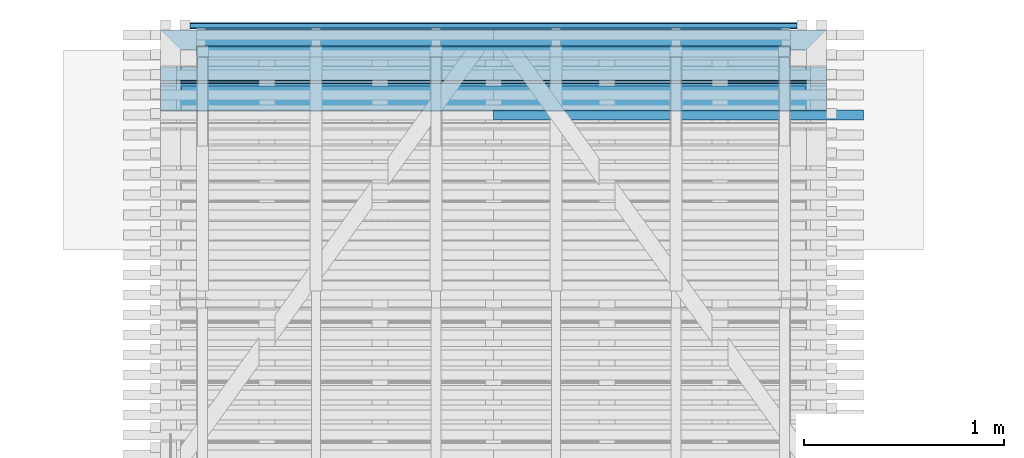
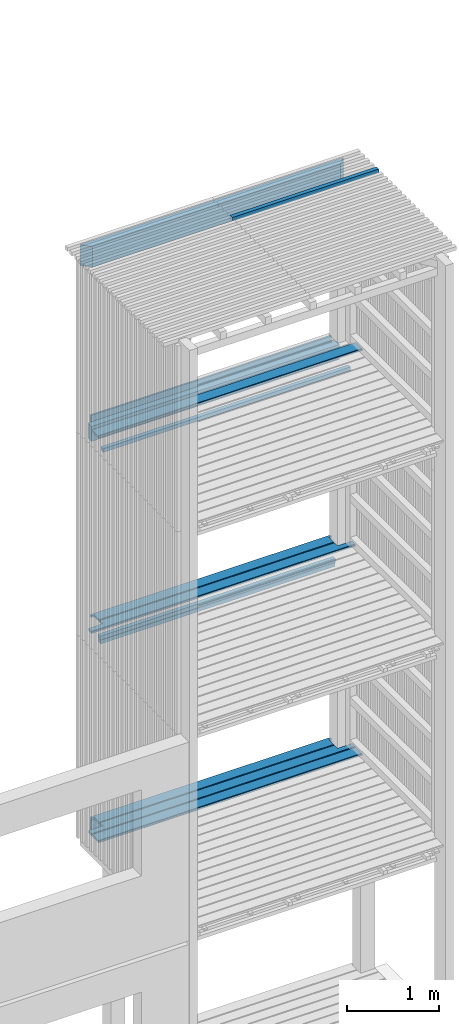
# One storey, part 77 of 182: 15 beams.
"""IFC2X3 building model written with IfcOpenShell, lengths in metres."""

from ifc_helpers import new_model, si_unit, frame, origin, place, context, project, spatial, faceted_brep, element, save


model = new_model("IFC2X3")

# Units and contexts
model_context = context("Model", 3, precision=1e-06, world=origin())
ifc_project = project(units=[si_unit("LENGTHUNIT", "METRE"), si_unit("PLANEANGLEUNIT", "RADIAN")], contexts=[model_context])

# Site, building, storey
site = spatial("IfcSite", under=ifc_project, CompositionType="ELEMENT")
building = spatial("IfcBuilding", under=site, CompositionType="ELEMENT")
storey = spatial("IfcBuildingStorey", under=building, Name="vs", CompositionType="ELEMENT", Elevation=-0.85)

# Beams
placement = place(None, origin())
beam_1_placement = place(placement, frame((26.189999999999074, 12.760077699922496, 5.167399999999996), z_axis=(0.0, 0.0, 1.0), x_axis=(-1.0, 0.0, 0.0)))
element("IfcBeam", 1, at=beam_1_placement, inside=storey, Name="Bardage", context=model_context, shape_type="Brep", body=[
    faceted_brep([(2.96000000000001, -0.024999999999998, 0.025), (2.96000000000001, -0.024999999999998, -0.025), (2.96000000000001, 0.025000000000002, -0.025), (2.96000000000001, 0.025000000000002, 0.025), (2e-15, 0.024999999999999, 0.025), (2e-15, 0.024999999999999, -0.025), (2e-15, -0.024999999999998, -0.025), (2e-15, -0.024999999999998, 0.025), (2e-15, -0.024999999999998, -0.025), (2e-15, 0.024999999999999, -0.025), (2.96000000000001, 0.025000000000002, -0.025), (2.96000000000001, -0.024999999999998, -0.025), (2e-15, 0.024999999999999, -0.025), (2e-15, 0.024999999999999, 0.025), (2.96000000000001, 0.025000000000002, 0.025), (2.96000000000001, 0.025000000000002, -0.025), (2e-15, 0.024999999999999, 0.025), (2e-15, -0.024999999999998, 0.025), (2.96000000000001, -0.024999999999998, 0.025), (2.96000000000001, 0.025000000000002, 0.025), (2e-15, -0.024999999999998, 0.025), (2e-15, -0.024999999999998, -0.025), (2.96000000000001, -0.024999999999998, -0.025), (2.96000000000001, -0.024999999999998, 0.025)], [[[0, 1, 2, 3]], [[4, 5, 6, 7]], [[8, 9, 10, 11]], [[12, 13, 14, 15]], [[16, 17, 18, 19]], [[20, 21, 22, 23]]]),
])
beam_2_placement = place(placement, frame((23.044999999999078, 12.82007769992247, 10.314999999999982), z_axis=(0.0, 0.0, 1.0), x_axis=(1.0, 7e-15, 0.0)))
element("IfcBeam", 2, at=beam_2_placement, inside=storey, Name="Sommier", context=model_context, shape_type="Brep", body=[
    faceted_brep([(3.33, 0.049999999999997, -0.140000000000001), (3.230000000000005, -0.049999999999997, -0.140000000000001), (0.099999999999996, -0.049999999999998, -0.140000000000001), (2e-15, 0.049999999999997, -0.140000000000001), (0.099999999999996, -0.049999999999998, -0.140000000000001), (3.230000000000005, -0.049999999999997, -0.140000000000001), (3.230000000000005, -0.049999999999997, 0.140000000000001), (0.099999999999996, -0.049999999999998, 0.140000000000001), (3.230000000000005, -0.049999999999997, -0.140000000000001), (3.33, 0.049999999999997, -0.140000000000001), (3.33, 0.049999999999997, 0.140000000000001), (3.230000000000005, -0.049999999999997, 0.140000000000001), (3.33, 0.049999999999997, 0.140000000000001), (3.33, 0.049999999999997, -0.140000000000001), (2e-15, 0.049999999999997, -0.140000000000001), (2e-15, 0.049999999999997, 0.140000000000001), (0.099999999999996, -0.049999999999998, 0.140000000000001), (3.230000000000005, -0.049999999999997, 0.140000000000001), (3.33, 0.049999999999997, 0.140000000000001), (2e-15, 0.049999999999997, 0.140000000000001), (0.099999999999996, -0.049999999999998, -0.140000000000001), (0.099999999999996, -0.049999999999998, 0.140000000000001), (2e-15, 0.049999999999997, 0.140000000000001), (2e-15, 0.049999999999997, -0.140000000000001)], [[[0, 1, 2, 3]], [[4, 5, 6, 7]], [[8, 9, 10, 11]], [[12, 13, 14, 15]], [[16, 17, 18, 19]], [[20, 21, 22, 23]]]),
])
beam_3_placement = place(placement, frame((26.226818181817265, 12.834577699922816, 5.433499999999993), z_axis=(0.0, 0.0, 1.0), x_axis=(-1.0, 0.0, 0.0)))
element("IfcBeam", 3, at=beam_3_placement, inside=storey, Name="Caillebotis", context=model_context, shape_type="Brep", body=[
    faceted_brep([(3.033636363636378, -0.072499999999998, -0.0135), (3.033636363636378, -0.072499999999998, 0.008500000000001), (2e-15, -0.072499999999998, 0.008500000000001), (2e-15, -0.072500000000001, -0.0135), (2.996818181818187, 0.072500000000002, 0.0085), (2.996818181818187, 0.067500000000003, 0.0135), (2.996818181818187, -0.040499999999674, 0.0135), (2.996818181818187, -0.040499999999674, -0.0135), (2.996818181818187, 0.072500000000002, -0.013500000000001), (0.036818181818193, -0.040499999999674, -0.0135), (0.036818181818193, 0.072499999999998, -0.0135), (2.996818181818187, 0.072500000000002, -0.013500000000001), (2.996818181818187, -0.040499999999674, -0.0135), (3.033636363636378, -0.040499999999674, -0.013500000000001), (3.033636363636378, -0.072499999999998, -0.0135), (2e-15, -0.072500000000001, -0.0135), (2e-15, -0.040499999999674, -0.0135), (3.033636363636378, -0.072499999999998, 0.008500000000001), (3.033636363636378, -0.072499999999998, -0.0135), (3.033636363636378, -0.040499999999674, -0.013500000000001), (3.033636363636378, -0.040499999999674, 0.0135), (3.033636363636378, -0.067500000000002, 0.0135), (3.033636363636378, -0.040499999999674, 0.0135), (3.033636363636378, -0.040499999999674, -0.013500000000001), (2.996818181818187, -0.040499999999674, -0.0135), (2.996818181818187, -0.040499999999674, 0.0135), (2.996818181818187, 0.072500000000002, 0.0085), (2.996818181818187, 0.072500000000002, -0.013500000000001), (0.036818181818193, 0.072499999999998, -0.0135), (0.036818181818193, 0.072499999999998, 0.008500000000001), (2.996818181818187, 0.067500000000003, 0.0135), (2.996818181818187, 0.072500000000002, 0.0085), (0.036818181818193, 0.072499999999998, 0.008500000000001), (0.036818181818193, 0.067500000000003, 0.0135), (0.036818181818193, 0.067500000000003, 0.0135), (0.036818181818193, 0.072499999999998, 0.008500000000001), (0.036818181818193, 0.072499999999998, -0.0135), (0.036818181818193, -0.040499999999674, -0.0135), (0.036818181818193, -0.040499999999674, 0.0135), (0.036818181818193, -0.040499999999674, 0.0135), (0.036818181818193, -0.040499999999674, -0.0135), (2e-15, -0.040499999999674, -0.0135), (2e-15, -0.040499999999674, 0.0135), (3.033636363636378, -0.067500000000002, 0.0135), (3.033636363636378, -0.040499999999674, 0.0135), (2.996818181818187, -0.040499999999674, 0.0135), (2.996818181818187, 0.067500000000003, 0.0135), (0.036818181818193, 0.067500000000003, 0.0135), (0.036818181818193, -0.040499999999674, 0.0135), (2e-15, -0.040499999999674, 0.0135), (2e-15, -0.067500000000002, 0.0135), (2e-15, -0.072499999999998, 0.008500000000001), (3.033636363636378, -0.072499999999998, 0.008500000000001), (3.033636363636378, -0.067500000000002, 0.0135), (2e-15, -0.067500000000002, 0.0135), (2e-15, -0.072500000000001, -0.0135), (2e-15, -0.072499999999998, 0.008500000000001), (2e-15, -0.067500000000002, 0.0135), (2e-15, -0.040499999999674, 0.0135), (2e-15, -0.040499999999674, -0.0135)], [[[0, 1, 2, 3]], [[4, 5, 6, 7, 8]], [[9, 10, 11, 12, 13, 14, 15, 16]], [[17, 18, 19, 20, 21]], [[22, 23, 24, 25]], [[26, 27, 28, 29]], [[30, 31, 32, 33]], [[34, 35, 36, 37, 38]], [[39, 40, 41, 42]], [[43, 44, 45, 46, 47, 48, 49, 50]], [[51, 52, 53, 54]], [[55, 56, 57, 58, 59]]]),
])
beam_4_placement = place(placement, frame((26.374999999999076, 12.534577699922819, 2.733499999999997), z_axis=(0.0, 0.0, 1.0), x_axis=(-1.0, -1e-15, 0.0)))
element("IfcBeam", 4, at=beam_4_placement, inside=storey, Name="Caillebotis", context=model_context, shape_type="Brep", body=[
    faceted_brep([(3.329999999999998, -0.072500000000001, -0.0135), (3.329999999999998, 0.072500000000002, -0.0135), (3.329999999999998, 0.072500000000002, 0.008500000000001), (3.329999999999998, 0.067499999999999, 0.0135), (3.329999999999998, -0.067499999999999, 0.0135), (3.329999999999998, -0.072500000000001, 0.008500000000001), (0.0, -0.072499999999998, 0.008500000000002), (0.0, -0.067499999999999, 0.0135), (0.0, 0.067500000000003, 0.0135), (0.0, 0.072500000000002, 0.008500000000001), (0.0, 0.072500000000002, -0.0135), (0.0, -0.072499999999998, -0.0135), (3.329999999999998, 0.072500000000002, 0.008500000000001), (3.329999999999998, 0.072500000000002, -0.0135), (0.0, 0.072500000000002, -0.0135), (0.0, 0.072500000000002, 0.008500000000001), (3.329999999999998, 0.067499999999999, 0.0135), (3.329999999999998, 0.072500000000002, 0.008500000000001), (0.0, 0.072500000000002, 0.008500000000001), (0.0, 0.067500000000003, 0.0135), (3.329999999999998, -0.067499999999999, 0.0135), (3.329999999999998, 0.067499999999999, 0.0135), (0.0, 0.067500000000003, 0.0135), (0.0, -0.067499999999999, 0.0135), (3.329999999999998, -0.072500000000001, 0.008500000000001), (3.329999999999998, -0.067499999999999, 0.0135), (0.0, -0.067499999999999, 0.0135), (0.0, -0.072499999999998, 0.008500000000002), (3.329999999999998, -0.072500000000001, -0.0135), (3.329999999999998, -0.072500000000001, 0.008500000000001), (0.0, -0.072499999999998, 0.008500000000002), (0.0, -0.072499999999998, -0.0135), (0.0, 0.072500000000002, -0.0135), (3.329999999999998, 0.072500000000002, -0.0135), (3.329999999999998, -0.072500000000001, -0.0135), (0.0, -0.072499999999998, -0.0135)], [[[0, 1, 2, 3, 4, 5]], [[6, 7, 8, 9, 10, 11]], [[12, 13, 14, 15]], [[16, 17, 18, 19]], [[20, 21, 22, 23]], [[24, 25, 26, 27]], [[28, 29, 30, 31]], [[32, 33, 34, 35]]]),
])
beam_5_placement = place(placement, frame((23.22499999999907, 12.765077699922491, 5.217399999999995), z_axis=(0.0, 0.0, 1.0), x_axis=(1.0, 1e-15, 0.0)))
element("IfcBeam", 5, at=beam_5_placement, inside=storey, Name="Ligneul", context=model_context, shape_type="Brep", body=[
    faceted_brep([(2e-15, -0.024999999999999, -0.024999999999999), (2.970000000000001, -0.025000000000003, -0.024999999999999), (2.970000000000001, -0.025000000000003, 0.025), (2e-15, -0.024999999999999, 0.025), (2e-15, -0.024999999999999, 0.025), (2.970000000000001, -0.025000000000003, 0.025), (2.970000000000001, 0.024999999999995, 0.025), (2e-15, 0.025000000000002, 0.025), (2e-15, 0.025000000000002, -0.024999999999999), (2e-15, -0.024999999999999, -0.024999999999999), (2e-15, -0.024999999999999, 0.025), (2e-15, 0.025000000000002, 0.025), (2e-15, 0.025000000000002, -0.024999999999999), (2e-15, 0.025000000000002, 0.025), (2.970000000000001, 0.024999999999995, 0.025), (2.970000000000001, 0.025000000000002, -0.024999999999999), (2e-15, -0.024999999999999, -0.024999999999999), (2e-15, 0.025000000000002, -0.024999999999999), (2.970000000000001, 0.025000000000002, -0.024999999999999), (2.970000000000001, -0.025000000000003, -0.024999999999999), (2.970000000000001, 0.025000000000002, -0.024999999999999), (2.970000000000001, 0.024999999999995, 0.025), (2.970000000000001, -0.025000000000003, 0.025), (2.970000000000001, -0.025000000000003, -0.024999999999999)], [[[0, 1, 2, 3]], [[4, 5, 6, 7]], [[8, 9, 10, 11]], [[12, 13, 14, 15]], [[16, 17, 18, 19]], [[20, 21, 22, 23]]]),
])
beam_6_placement = place(placement, frame((26.374999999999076, 12.684577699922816, 2.733499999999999), z_axis=(0.0, 0.0, 1.0), x_axis=(-1.0, 0.0, 0.0)))
element("IfcBeam", 6, at=beam_6_placement, inside=storey, Name="Caillebotis", context=model_context, shape_type="Brep", body=[
    faceted_brep([(3.144999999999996, -0.000499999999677, 0.0135), (3.144999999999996, -0.000499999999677, -0.0135), (3.329999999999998, -0.000499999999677, -0.0135), (3.329999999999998, -0.000499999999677, 0.0135), (3.329999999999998, 0.072500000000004, -0.0135), (3.329999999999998, 0.0725, 0.0085), (3.329999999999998, 0.067500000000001, 0.0135), (3.329999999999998, -0.000499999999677, 0.0135), (3.329999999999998, -0.000499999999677, -0.0135), (3.144999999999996, -0.072499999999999, 0.008500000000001), (3.144999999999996, -0.072499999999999, -0.013500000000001), (3.144999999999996, -0.000499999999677, -0.0135), (3.144999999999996, -0.000499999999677, 0.0135), (3.144999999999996, -0.0675, 0.0135), (3.144999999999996, -0.072499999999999, -0.013500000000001), (3.144999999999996, -0.072499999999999, 0.008500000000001), (0.185000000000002, -0.072499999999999, 0.008500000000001), (0.185000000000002, -0.072499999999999, -0.0135), (3.144999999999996, -0.072499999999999, 0.008500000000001), (3.144999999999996, -0.0675, 0.0135), (0.185000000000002, -0.067500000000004, 0.0135), (0.185000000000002, -0.072499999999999, 0.008500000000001), (0.185000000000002, -0.072499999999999, -0.0135), (0.185000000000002, -0.072499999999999, 0.008500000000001), (0.185000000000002, -0.067500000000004, 0.0135), (0.185000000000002, -0.000499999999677, 0.0135), (0.185000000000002, -0.000499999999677, -0.0135), (1.4e-14, -0.000499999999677, 0.0135), (0.0, 0.067500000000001, 0.0135), (0.0, 0.0725, 0.008500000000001), (0.0, 0.0725, -0.0135), (0.0, -0.000499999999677, -0.0135), (3.329999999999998, 0.0725, 0.0085), (3.329999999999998, 0.072500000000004, -0.0135), (0.0, 0.0725, -0.0135), (0.0, 0.0725, 0.008500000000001), (3.329999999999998, 0.067500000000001, 0.0135), (3.329999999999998, 0.0725, 0.0085), (0.0, 0.0725, 0.008500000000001), (0.0, 0.067500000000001, 0.0135), (3.144999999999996, -0.0675, 0.0135), (3.144999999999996, -0.000499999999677, 0.0135), (3.329999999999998, -0.000499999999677, 0.0135), (3.329999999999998, 0.067500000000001, 0.0135), (0.0, 0.067500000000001, 0.0135), (1.4e-14, -0.000499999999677, 0.0135), (0.185000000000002, -0.000499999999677, 0.0135), (0.185000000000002, -0.067500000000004, 0.0135), (0.185000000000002, -0.000499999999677, -0.0135), (0.185000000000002, -0.000499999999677, 0.0135), (1.4e-14, -0.000499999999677, 0.0135), (0.0, -0.000499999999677, -0.0135), (0.0, -0.000499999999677, -0.0135), (0.0, 0.0725, -0.0135), (3.329999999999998, 0.072500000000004, -0.0135), (3.329999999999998, -0.000499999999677, -0.0135), (3.144999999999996, -0.000499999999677, -0.0135), (3.144999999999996, -0.072499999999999, -0.013500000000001), (0.185000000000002, -0.072499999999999, -0.0135), (0.185000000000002, -0.000499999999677, -0.0135)], [[[0, 1, 2, 3]], [[4, 5, 6, 7, 8]], [[9, 10, 11, 12, 13]], [[14, 15, 16, 17]], [[18, 19, 20, 21]], [[22, 23, 24, 25, 26]], [[27, 28, 29, 30, 31]], [[32, 33, 34, 35]], [[36, 37, 38, 39]], [[40, 41, 42, 43, 44, 45, 46, 47]], [[48, 49, 50, 51]], [[52, 53, 54, 55, 56, 57, 58, 59]]]),
])
beam_7_placement = place(placement, frame((23.22499999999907, 12.765077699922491, 2.5174), z_axis=(0.0, 0.0, 1.0), x_axis=(1.0, 1e-15, 0.0)))
element("IfcBeam", 7, at=beam_7_placement, inside=storey, Name="Ligneul", context=model_context, shape_type="Brep", body=[
    faceted_brep([(2e-15, -0.024999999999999, 0.025), (2e-15, -0.024999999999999, -0.025), (2.970000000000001, -0.025000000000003, -0.025), (2.970000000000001, -0.025000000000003, 0.025), (2e-15, 0.025000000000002, 0.025), (2e-15, -0.024999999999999, 0.025), (2.970000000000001, -0.025000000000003, 0.025), (2.970000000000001, 0.025000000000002, 0.025), (2e-15, -0.024999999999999, 0.025), (2e-15, 0.025000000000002, 0.025), (2e-15, 0.025000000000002, -0.025), (2e-15, -0.024999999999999, -0.025), (2e-15, 0.025000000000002, -0.025), (2e-15, 0.025000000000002, 0.025), (2.970000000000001, 0.025000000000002, 0.025), (2.970000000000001, 0.025000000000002, -0.025), (2.970000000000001, -0.025000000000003, -0.025), (2e-15, -0.024999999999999, -0.025), (2e-15, 0.025000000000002, -0.025), (2.970000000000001, 0.025000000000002, -0.025), (2.970000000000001, -0.025000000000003, 0.025), (2.970000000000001, -0.025000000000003, -0.025), (2.970000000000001, 0.025000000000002, -0.025), (2.970000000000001, 0.025000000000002, 0.025)], [[[0, 1, 2, 3]], [[4, 5, 6, 7]], [[8, 9, 10, 11]], [[12, 13, 14, 15]], [[16, 17, 18, 19]], [[20, 21, 22, 23]]]),
])
beam_8_placement = place(placement, frame((23.19318181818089, 12.893577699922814, 8.042499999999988), z_axis=(0.0, 1.0, 0.0), x_axis=(1.0, 0.0, 0.0)))
element("IfcBeam", 8, at=beam_8_placement, inside=storey, Name="Caillebotis", context=model_context, shape_type="Brep", body=[
    faceted_brep([(-3e-15, -0.072500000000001, -0.013500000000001), (-3e-15, 0.072499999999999, -0.013500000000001), (3.033636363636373, 0.072499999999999, -0.013500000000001), (3.033636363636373, -0.072500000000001, -0.013500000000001), (-3e-15, -0.072500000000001, 0.008500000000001), (-3e-15, -0.072500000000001, -0.013500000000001), (3.033636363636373, -0.072500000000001, -0.013500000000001), (3.033636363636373, -0.072500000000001, 0.008500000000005), (-3e-15, -0.067500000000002, 0.0135), (-3e-15, -0.072500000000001, 0.008500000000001), (3.033636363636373, -0.072500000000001, 0.008500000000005), (3.033636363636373, -0.067500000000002, 0.013500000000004), (-3e-15, -0.072500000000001, -0.013500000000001), (-3e-15, -0.072500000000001, 0.008500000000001), (-3e-15, -0.067500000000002, 0.0135), (-3e-15, 0.0675, 0.0135), (-3e-15, 0.072499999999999, 0.008500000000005), (-3e-15, 0.072499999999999, -0.013500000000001), (-3e-15, 0.0675, 0.0135), (-3e-15, -0.067500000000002, 0.0135), (3.033636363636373, -0.067500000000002, 0.013500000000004), (3.033636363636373, 0.0675, 0.013500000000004), (-3e-15, 0.072499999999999, 0.008500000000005), (-3e-15, 0.0675, 0.0135), (3.033636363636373, 0.0675, 0.013500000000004), (3.033636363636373, 0.072499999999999, 0.008500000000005), (3.033636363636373, 0.072499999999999, -0.013500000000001), (-3e-15, 0.072499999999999, -0.013500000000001), (-3e-15, 0.072499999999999, 0.008500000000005), (3.033636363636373, 0.072499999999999, 0.008500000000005), (3.033636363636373, -0.072500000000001, 0.008500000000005), (3.033636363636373, -0.072500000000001, -0.013500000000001), (3.033636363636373, 0.072499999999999, -0.013500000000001), (3.033636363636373, 0.072499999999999, 0.008500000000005), (3.033636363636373, 0.0675, 0.013500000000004), (3.033636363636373, -0.067500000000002, 0.013500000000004)], [[[0, 1, 2, 3]], [[4, 5, 6, 7]], [[8, 9, 10, 11]], [[12, 13, 14, 15, 16, 17]], [[18, 19, 20, 21]], [[22, 23, 24, 25]], [[26, 27, 28, 29]], [[30, 31, 32, 33, 34, 35]]]),
])
beam_9_placement = place(placement, frame((26.374999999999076, 12.684577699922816, 5.433499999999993), z_axis=(0.0, 0.0, 1.0), x_axis=(-1.0, 0.0, 0.0)))
element("IfcBeam", 9, at=beam_9_placement, inside=storey, Name="Caillebotis", context=model_context, shape_type="Brep", body=[
    faceted_brep([(3.144999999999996, -0.000499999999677, 0.0135), (3.144999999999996, -0.000499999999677, -0.0135), (3.329999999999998, -0.000499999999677, -0.0135), (3.329999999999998, -0.000499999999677, 0.0135), (3.329999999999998, 0.072500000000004, -0.0135), (3.329999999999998, 0.0725, 0.008500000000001), (3.329999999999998, 0.067500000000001, 0.0135), (3.329999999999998, -0.000499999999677, 0.0135), (3.329999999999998, -0.000499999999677, -0.0135), (3.144999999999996, -0.072499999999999, 0.008500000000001), (3.144999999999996, -0.072499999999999, -0.013500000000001), (3.144999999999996, -0.000499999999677, -0.0135), (3.144999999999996, -0.000499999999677, 0.0135), (3.144999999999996, -0.0675, 0.0135), (3.144999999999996, -0.072499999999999, -0.013500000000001), (3.144999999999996, -0.072499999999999, 0.008500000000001), (0.185000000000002, -0.072499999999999, 0.008500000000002), (0.185000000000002, -0.072499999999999, -0.0135), (3.144999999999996, -0.072499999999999, 0.008500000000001), (3.144999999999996, -0.0675, 0.0135), (0.185000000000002, -0.067500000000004, 0.0135), (0.185000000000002, -0.072499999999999, 0.008500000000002), (0.185000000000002, -0.072499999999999, -0.0135), (0.185000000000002, -0.072499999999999, 0.008500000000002), (0.185000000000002, -0.067500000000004, 0.0135), (0.185000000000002, -0.000499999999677, 0.0135), (0.185000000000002, -0.000499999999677, -0.0135), (1.4e-14, -0.000499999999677, 0.0135), (0.0, 0.067500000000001, 0.0135), (0.0, 0.0725, 0.008500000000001), (0.0, 0.0725, -0.0135), (0.0, -0.000499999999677, -0.0135), (3.329999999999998, 0.0725, 0.008500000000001), (3.329999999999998, 0.072500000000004, -0.0135), (0.0, 0.0725, -0.0135), (0.0, 0.0725, 0.008500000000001), (3.329999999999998, 0.067500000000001, 0.0135), (3.329999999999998, 0.0725, 0.008500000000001), (0.0, 0.0725, 0.008500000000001), (0.0, 0.067500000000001, 0.0135), (3.144999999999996, -0.0675, 0.0135), (3.144999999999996, -0.000499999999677, 0.0135), (3.329999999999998, -0.000499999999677, 0.0135), (3.329999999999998, 0.067500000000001, 0.0135), (0.0, 0.067500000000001, 0.0135), (1.4e-14, -0.000499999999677, 0.0135), (0.185000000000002, -0.000499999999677, 0.0135), (0.185000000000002, -0.067500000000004, 0.0135), (0.185000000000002, -0.000499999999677, -0.0135), (0.185000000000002, -0.000499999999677, 0.0135), (1.4e-14, -0.000499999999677, 0.0135), (0.0, -0.000499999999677, -0.0135), (0.0, -0.000499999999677, -0.0135), (0.0, 0.0725, -0.0135), (3.329999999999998, 0.072500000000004, -0.0135), (3.329999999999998, -0.000499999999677, -0.0135), (3.144999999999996, -0.000499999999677, -0.0135), (3.144999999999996, -0.072499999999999, -0.013500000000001), (0.185000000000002, -0.072499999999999, -0.0135), (0.185000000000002, -0.000499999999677, -0.0135)], [[[0, 1, 2, 3]], [[4, 5, 6, 7, 8]], [[9, 10, 11, 12, 13]], [[14, 15, 16, 17]], [[18, 19, 20, 21]], [[22, 23, 24, 25, 26]], [[27, 28, 29, 30, 31]], [[32, 33, 34, 35]], [[36, 37, 38, 39]], [[40, 41, 42, 43, 44, 45, 46, 47]], [[48, 49, 50, 51]], [[52, 53, 54, 55, 56, 57, 58, 59]]]),
])
beam_10_placement = place(placement, frame((26.274999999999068, 12.830077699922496, 7.93999999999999), z_axis=(0.0, 0.0, 1.0), x_axis=(-1.0, 0.0, 0.0)))
element("IfcBeam", 10, at=beam_10_placement, inside=storey, Name="Sommier", context=model_context, shape_type="Brep", body=[
    faceted_brep([(3.129999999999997, -0.039999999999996, 0.1), (3.129999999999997, 0.040000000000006, 0.1), (1e-15, 0.040000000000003, 0.1), (1e-15, -0.039999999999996, 0.1), (3.129999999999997, -0.039999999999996, -0.100000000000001), (3.129999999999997, -0.039999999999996, 0.1), (1e-15, -0.039999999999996, 0.1), (1e-15, -0.039999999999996, -0.100000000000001), (3.129999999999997, -0.039999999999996, 0.1), (3.129999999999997, -0.039999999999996, -0.100000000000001), (3.129999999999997, 0.040000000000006, -0.1), (3.129999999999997, 0.040000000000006, 0.1), (3.129999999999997, 0.040000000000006, -0.1), (3.129999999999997, -0.039999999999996, -0.100000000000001), (1e-15, -0.039999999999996, -0.100000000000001), (1e-15, 0.040000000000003, -0.100000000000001), (1e-15, 0.040000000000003, 0.1), (3.129999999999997, 0.040000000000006, 0.1), (3.129999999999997, 0.040000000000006, -0.1), (1e-15, 0.040000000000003, -0.100000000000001), (1e-15, -0.039999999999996, 0.1), (1e-15, 0.040000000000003, 0.1), (1e-15, 0.040000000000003, -0.100000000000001), (1e-15, -0.039999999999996, -0.100000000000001)], [[[0, 1, 2, 3]], [[4, 5, 6, 7]], [[8, 9, 10, 11]], [[12, 13, 14, 15]], [[16, 17, 18, 19]], [[20, 21, 22, 23]]]),
])
beam_11_placement = place(placement, frame((26.226818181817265, 12.834577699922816, 2.733499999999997), z_axis=(0.0, 0.0, 1.0), x_axis=(-1.0, 0.0, 0.0)))
element("IfcBeam", 11, at=beam_11_placement, inside=storey, Name="Caillebotis", context=model_context, shape_type="Brep", body=[
    faceted_brep([(3.033636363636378, -0.072499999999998, -0.0135), (3.033636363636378, -0.072499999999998, 0.008500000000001), (2e-15, -0.072499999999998, 0.008500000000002), (2e-15, -0.072500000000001, -0.0135), (2.996818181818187, 0.072500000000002, 0.0085), (2.996818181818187, 0.067500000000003, 0.0135), (2.996818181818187, -0.040499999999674, 0.0135), (2.996818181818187, -0.040499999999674, -0.0135), (2.996818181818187, 0.072500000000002, -0.0135), (0.036818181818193, -0.040499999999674, -0.0135), (0.036818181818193, 0.072499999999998, -0.0135), (2.996818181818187, 0.072500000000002, -0.0135), (2.996818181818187, -0.040499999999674, -0.0135), (3.033636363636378, -0.040499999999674, -0.0135), (3.033636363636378, -0.072499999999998, -0.0135), (2e-15, -0.072500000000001, -0.0135), (2e-15, -0.040499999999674, -0.0135), (3.033636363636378, -0.072499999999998, 0.008500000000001), (3.033636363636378, -0.072499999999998, -0.0135), (3.033636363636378, -0.040499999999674, -0.0135), (3.033636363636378, -0.040499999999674, 0.0135), (3.033636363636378, -0.067500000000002, 0.0135), (3.033636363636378, -0.040499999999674, 0.0135), (3.033636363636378, -0.040499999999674, -0.0135), (2.996818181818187, -0.040499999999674, -0.0135), (2.996818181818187, -0.040499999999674, 0.0135), (2.996818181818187, 0.072500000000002, 0.0085), (2.996818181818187, 0.072500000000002, -0.0135), (0.036818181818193, 0.072499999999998, -0.0135), (0.036818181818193, 0.072499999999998, 0.0085), (2.996818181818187, 0.067500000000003, 0.0135), (2.996818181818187, 0.072500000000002, 0.0085), (0.036818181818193, 0.072499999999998, 0.0085), (0.036818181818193, 0.067500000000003, 0.0135), (0.036818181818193, 0.067500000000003, 0.0135), (0.036818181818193, 0.072499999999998, 0.0085), (0.036818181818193, 0.072499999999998, -0.0135), (0.036818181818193, -0.040499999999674, -0.0135), (0.036818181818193, -0.040499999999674, 0.0135), (0.036818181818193, -0.040499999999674, 0.0135), (0.036818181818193, -0.040499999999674, -0.0135), (2e-15, -0.040499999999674, -0.0135), (2e-15, -0.040499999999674, 0.0135), (3.033636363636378, -0.067500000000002, 0.0135), (3.033636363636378, -0.040499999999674, 0.0135), (2.996818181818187, -0.040499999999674, 0.0135), (2.996818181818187, 0.067500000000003, 0.0135), (0.036818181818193, 0.067500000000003, 0.0135), (0.036818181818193, -0.040499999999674, 0.0135), (2e-15, -0.040499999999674, 0.0135), (2e-15, -0.067500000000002, 0.0135), (2e-15, -0.072499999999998, 0.008500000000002), (3.033636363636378, -0.072499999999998, 0.008500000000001), (3.033636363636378, -0.067500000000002, 0.0135), (2e-15, -0.067500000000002, 0.0135), (2e-15, -0.072500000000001, -0.0135), (2e-15, -0.072499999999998, 0.008500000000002), (2e-15, -0.067500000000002, 0.0135), (2e-15, -0.040499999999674, 0.0135), (2e-15, -0.040499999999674, -0.0135)], [[[0, 1, 2, 3]], [[4, 5, 6, 7, 8]], [[9, 10, 11, 12, 13, 14, 15, 16]], [[17, 18, 19, 20, 21]], [[22, 23, 24, 25]], [[26, 27, 28, 29]], [[30, 31, 32, 33]], [[34, 35, 36, 37, 38]], [[39, 40, 41, 42]], [[43, 44, 45, 46, 47, 48, 49, 50]], [[51, 52, 53, 54]], [[55, 56, 57, 58, 59]]]),
])
beam_12_placement = place(placement, frame((26.269999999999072, 12.565911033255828, 7.86739999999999), z_axis=(0.0, 0.0, 1.0), x_axis=(-1.0, 0.0, 0.0)))
element("IfcBeam", 12, at=beam_12_placement, inside=storey, Name="Bardage", context=model_context, shape_type="Brep", body=[
    faceted_brep([(3.120000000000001, 0.025000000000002, -0.024999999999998), (3.120000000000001, 0.025000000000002, 0.025000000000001), (3.120000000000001, -0.024999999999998, 0.025000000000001), (3.120000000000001, -0.024999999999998, -0.024999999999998), (-3e-15, -0.024999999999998, -0.024999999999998), (-3e-15, -0.024999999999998, 0.025000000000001), (-3e-15, 0.025000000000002, 0.025000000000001), (-3e-15, 0.025000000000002, -0.024999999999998), (-3e-15, 0.025000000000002, -0.024999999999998), (-3e-15, 0.025000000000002, 0.025000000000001), (3.120000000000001, 0.025000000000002, 0.025000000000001), (3.120000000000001, 0.025000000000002, -0.024999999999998), (-3e-15, 0.025000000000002, 0.025000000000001), (-3e-15, -0.024999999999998, 0.025000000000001), (3.120000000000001, -0.024999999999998, 0.025000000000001), (3.120000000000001, 0.025000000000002, 0.025000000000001), (-3e-15, -0.024999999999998, 0.025000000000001), (-3e-15, -0.024999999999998, -0.024999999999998), (3.120000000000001, -0.024999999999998, -0.024999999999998), (3.120000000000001, -0.024999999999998, 0.025000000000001), (-3e-15, -0.024999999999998, -0.024999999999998), (-3e-15, 0.025000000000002, -0.024999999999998), (3.120000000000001, 0.025000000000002, -0.024999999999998), (3.120000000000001, -0.024999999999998, -0.024999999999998)], [[[0, 1, 2, 3]], [[4, 5, 6, 7]], [[8, 9, 10, 11]], [[12, 13, 14, 15]], [[16, 17, 18, 19]], [[20, 21, 22, 23]]]),
])
beam_13_placement = place(placement, frame((26.374999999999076, 12.534577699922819, 8.13349999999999), z_axis=(0.0, 0.0, 1.0), x_axis=(-1.0, -1e-15, 0.0)))
element("IfcBeam", 13, at=beam_13_placement, inside=storey, Name="Caillebotis", context=model_context, shape_type="Brep", body=[
    faceted_brep([(3.329999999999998, -0.072500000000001, -0.013500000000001), (3.329999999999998, 0.072500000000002, -0.013500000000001), (3.329999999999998, 0.072500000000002, 0.0085), (3.329999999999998, 0.067499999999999, 0.013499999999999), (3.329999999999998, -0.067499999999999, 0.013499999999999), (3.329999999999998, -0.072500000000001, 0.0085), (0.0, -0.072499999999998, 0.0085), (0.0, -0.067499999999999, 0.013499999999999), (0.0, 0.067500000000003, 0.013499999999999), (0.0, 0.072500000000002, 0.0085), (0.0, 0.072500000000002, -0.013500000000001), (0.0, -0.072499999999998, -0.013500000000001), (3.329999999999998, 0.072500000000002, 0.0085), (3.329999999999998, 0.072500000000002, -0.013500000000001), (0.0, 0.072500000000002, -0.013500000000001), (0.0, 0.072500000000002, 0.0085), (3.329999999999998, 0.067499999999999, 0.013499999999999), (3.329999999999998, 0.072500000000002, 0.0085), (0.0, 0.072500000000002, 0.0085), (0.0, 0.067500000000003, 0.013499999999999), (3.329999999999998, -0.067499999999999, 0.013499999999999), (3.329999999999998, 0.067499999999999, 0.013499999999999), (0.0, 0.067500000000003, 0.013499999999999), (0.0, -0.067499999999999, 0.013499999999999), (3.329999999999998, -0.072500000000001, 0.0085), (3.329999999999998, -0.067499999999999, 0.013499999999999), (0.0, -0.067499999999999, 0.013499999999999), (0.0, -0.072499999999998, 0.0085), (3.329999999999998, -0.072500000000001, -0.013500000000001), (3.329999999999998, -0.072500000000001, 0.0085), (0.0, -0.072499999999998, 0.0085), (0.0, -0.072499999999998, -0.013500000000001), (0.0, 0.072500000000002, -0.013500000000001), (3.329999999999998, 0.072500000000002, -0.013500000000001), (3.329999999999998, -0.072500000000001, -0.013500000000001), (0.0, -0.072499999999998, -0.013500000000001)], [[[0, 1, 2, 3, 4, 5]], [[6, 7, 8, 9, 10, 11]], [[12, 13, 14, 15]], [[16, 17, 18, 19]], [[20, 21, 22, 23]], [[24, 25, 26, 27]], [[28, 29, 30, 31]], [[32, 33, 34, 35]]]),
])
beam_14_placement = place(placement, frame((23.19318181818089, 12.893577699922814, 2.642499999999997), z_axis=(0.0, 1.0, 0.0), x_axis=(1.0, 0.0, 0.0)))
element("IfcBeam", 14, at=beam_14_placement, inside=storey, Name="Caillebotis", context=model_context, shape_type="Brep", body=[
    faceted_brep([(-3e-15, -0.0725, -0.013500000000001), (-3e-15, 0.0725, -0.013500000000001), (3.033636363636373, 0.0725, -0.013499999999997), (3.033636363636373, -0.0725, -0.013499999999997), (-3e-15, -0.0725, 0.008500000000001), (-3e-15, -0.0725, -0.013500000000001), (3.033636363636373, -0.0725, -0.013499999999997), (3.033636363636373, -0.0725, 0.008500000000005), (-3e-15, -0.067500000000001, 0.0135), (-3e-15, -0.0725, 0.008500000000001), (3.033636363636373, -0.0725, 0.008500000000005), (3.033636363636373, -0.067500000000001, 0.013500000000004), (-3e-15, -0.0725, -0.013500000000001), (-3e-15, -0.0725, 0.008500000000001), (-3e-15, -0.067500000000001, 0.0135), (-3e-15, 0.067500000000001, 0.0135), (-3e-15, 0.0725, 0.008500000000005), (-3e-15, 0.0725, -0.013500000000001), (-3e-15, 0.067500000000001, 0.0135), (-3e-15, -0.067500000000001, 0.0135), (3.033636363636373, -0.067500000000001, 0.013500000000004), (3.033636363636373, 0.067500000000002, 0.013500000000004), (-3e-15, 0.0725, 0.008500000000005), (-3e-15, 0.067500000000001, 0.0135), (3.033636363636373, 0.067500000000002, 0.013500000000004), (3.033636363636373, 0.0725, 0.008500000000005), (3.033636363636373, 0.0725, -0.013499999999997), (-3e-15, 0.0725, -0.013500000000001), (-3e-15, 0.0725, 0.008500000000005), (3.033636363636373, 0.0725, 0.008500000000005), (3.033636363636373, -0.0725, 0.008500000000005), (3.033636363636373, -0.0725, -0.013499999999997), (3.033636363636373, 0.0725, -0.013499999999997), (3.033636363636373, 0.0725, 0.008500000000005), (3.033636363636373, 0.067500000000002, 0.013500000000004), (3.033636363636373, -0.067500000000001, 0.013500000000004)], [[[0, 1, 2, 3]], [[4, 5, 6, 7]], [[8, 9, 10, 11]], [[12, 13, 14, 15, 16, 17]], [[18, 19, 20, 21]], [[22, 23, 24, 25]], [[26, 27, 28, 29]], [[30, 31, 32, 33, 34, 35]]]),
])
beam_15_placement = place(placement, frame((26.559999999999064, 12.445077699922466, 10.47999999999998), z_axis=(0.0, 0.0, 1.0), x_axis=(-1.0, 2e-15, 0.0)))
element("IfcBeam", 15, at=beam_15_placement, inside=storey, Name="Bardage", context=model_context, shape_type="Brep", body=[
    faceted_brep([(-3e-15, 0.024999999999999, 0.025000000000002), (-3e-15, -0.025000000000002, 0.025000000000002), (1.849999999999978, -0.024999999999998, 0.025000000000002), (1.849999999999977, 0.025000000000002, 0.025000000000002), (1.849999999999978, -0.024999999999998, 0.025000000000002), (-3e-15, -0.025000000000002, 0.025000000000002), (-3e-15, -0.025000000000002, -0.024999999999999), (1.849999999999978, -0.024999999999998, -0.024999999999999), (-3e-15, -0.025000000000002, 0.025000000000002), (-3e-15, 0.024999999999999, 0.025000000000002), (-3e-15, 0.024999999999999, -0.024999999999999), (-3e-15, -0.025000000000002, -0.024999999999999), (-3e-15, 0.024999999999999, -0.024999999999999), (-3e-15, 0.024999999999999, 0.025000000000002), (1.849999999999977, 0.025000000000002, 0.025000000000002), (1.849999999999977, 0.025000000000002, -0.024999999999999), (1.849999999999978, -0.024999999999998, -0.024999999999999), (-3e-15, -0.025000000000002, -0.024999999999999), (-3e-15, 0.024999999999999, -0.024999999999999), (1.849999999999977, 0.025000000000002, -0.024999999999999), (1.849999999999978, -0.024999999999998, 0.025000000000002), (1.849999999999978, -0.024999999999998, -0.024999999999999), (1.849999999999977, 0.025000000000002, -0.024999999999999), (1.849999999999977, 0.025000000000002, 0.025000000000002)], [[[0, 1, 2, 3]], [[4, 5, 6, 7]], [[8, 9, 10, 11]], [[12, 13, 14, 15]], [[16, 17, 18, 19]], [[20, 21, 22, 23]]]),
])

save(model, "model.ifc")
